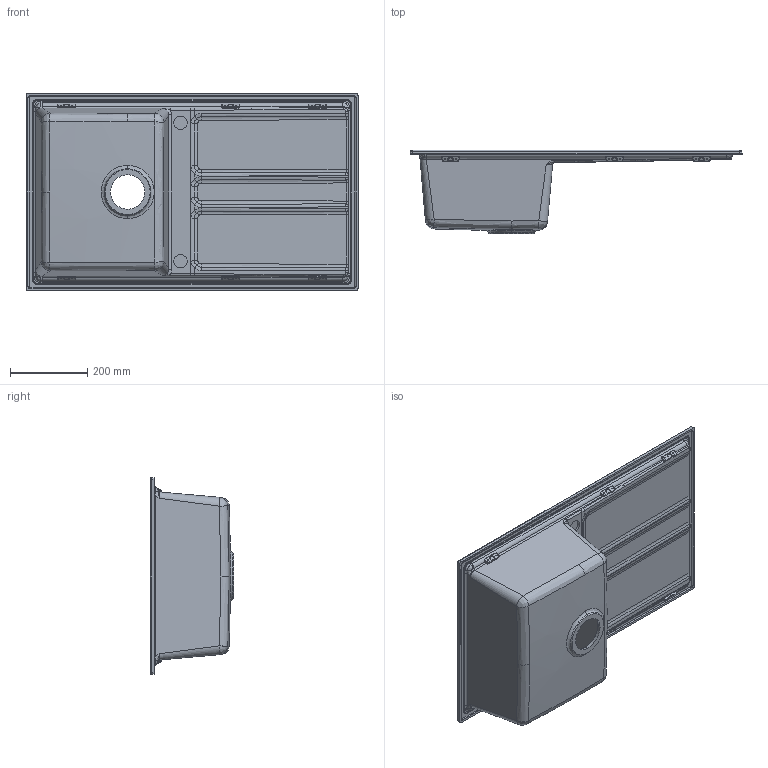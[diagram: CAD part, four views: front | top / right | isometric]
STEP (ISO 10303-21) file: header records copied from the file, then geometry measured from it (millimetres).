
FILE_DESCRIPTION (( 'STEP AP203' ), '1' );
FILE_NAME ('Best400.STEP', '2018-10-10T09:18:33', ( '' ), ( '' ), 'SwSTEP 2.0', 'SolidWorks 2013', '' );
FILE_SCHEMA (( 'CONFIG_CONTROL_DESIGN' ));
Length unit declared in the file: millimetre
Products named in the file (1): Best400
Bounding box: 860 x 216.51 x 510 mm (x, y, z)
Volume: 5826213.8 mm3; surface area: 1404088.8 mm2
Topology: 1 solids, 1 shells, 763 faces, 1790 edges, 1011 vertices
Faces by surface type: bspline 390, cylinder 260, plane 109, cone 4
Entity records: 39487 total; most frequent: CARTESIAN_POINT 24783, ORIENTED_EDGE 3504, DIRECTION 2448, EDGE_CURVE 1752, VERTEX_POINT 1011, AXIS2_PLACEMENT_3D 984, EDGE_LOOP 787, ADVANCED_FACE 763
